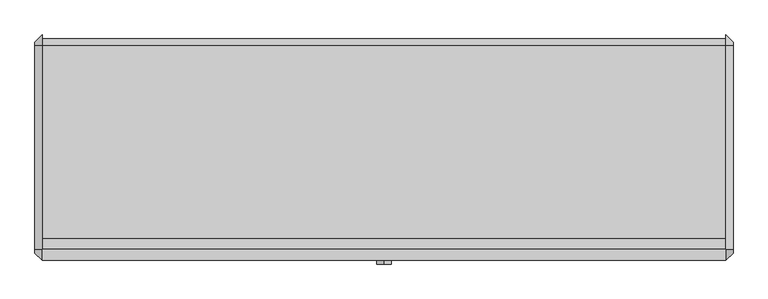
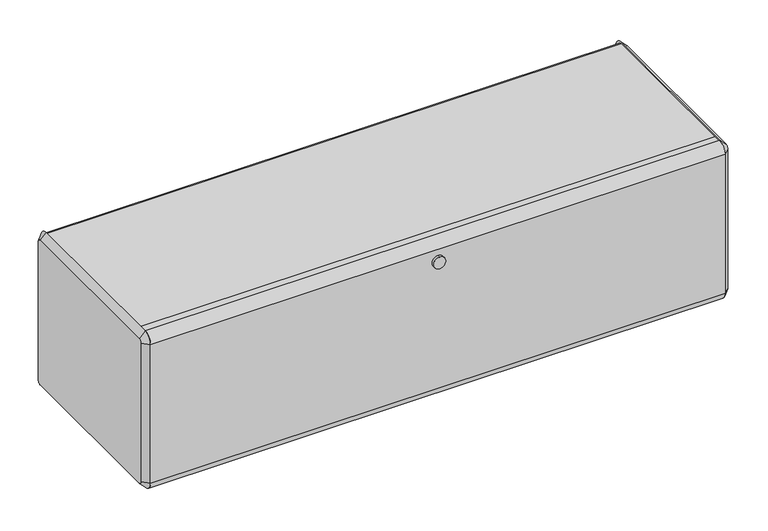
"""IFC4 building model written with IfcOpenShell, lengths in millimetres: furniture geometry."""

from ifc_helpers import new_model, si_unit, point, frame, frame_2d, origin, place, context, project, spatial, polyline, circle_curve, trimmed, segment, composite_curve, outline, extrude, source, transform, mapped, element, save
from ifc_brep_helpers import plane_surface, revolved_surface, advanced_brep


def furniture_debc09a2(model_context):
    return source(origin(), model_context, "Body", "SolidModel", [
        extrude(outline(polyline([(596.9, -146.0499879), (596.9, -165.1), (-596.9, -165.1), (-596.9, -146.0499879), (596.9, -146.0499879)])), frame((0.0, 0.0, 857.25), z_axis=(0.0, 0.0, 1.0), x_axis=(1.0, 0.0, 0.0)), (0.0, 0.0, 1.0), 9.525),
        extrude(outline(polyline([(596.9, 190.5), (596.9, -165.1), (-596.9, -165.1), (-596.9, 190.5), (596.9, 190.5)])), frame((0.0, 0.0, 527.05), z_axis=(0.0, 0.0, 1.0), x_axis=(1.0, 0.0, 0.0)), (0.0, 0.0, 1.0), 3.175),
        extrude(outline(composite_curve([segment(polyline([(-165.1, 866.775), (190.5, 866.775)]), True, "CONTINUOUS"), segment(trimmed(circle_curve(frame_2d((187.8607088, 851.6460671)), 15.3574239), [point((190.5, 866.775))], [point((203.2, 850.9))], False, "CARTESIAN"), True, "CONTINUOUS"), segment(polyline([(203.2, 850.9), (145.064407, 850.9)]), True, "CONTINUOUS"), segment(trimmed(circle_curve(frame_2d((218.4458797, 742.4427909)), 130.9496344), [point((145.064407, 850.9))], [point((190.5, 614.5098609))], True, "CARTESIAN"), True, "CONTINUOUS"), segment(polyline([(190.5, 614.5098609), (-165.1, 614.5098609), (-165.1, 866.775)]), True, "CONTINUOUS")], self_intersect=False)), frame((-596.9, 0.0, 0.0), z_axis=(1.0, 0.0, 0.0), x_axis=(0.0, 1.0, 0.0)), (0.0, 0.0, 1.0), 1193.8),
        extrude(outline(composite_curve([segment(trimmed(circle_curve(frame_2d((-165.1, 850.9)), 19.05), [point((-184.15, 850.9))], [point((-165.1, 869.95))], False, "CARTESIAN"), True, "CONTINUOUS"), segment(polyline([(-165.1, 869.95), (-165.1, 857.25)]), True, "CONTINUOUS"), segment(trimmed(circle_curve(frame_2d((-165.1, 850.9)), 6.35), [point((-165.1, 857.25))], [point((-171.45, 850.9))], True, "CARTESIAN"), True, "CONTINUOUS"), segment(polyline([(-171.45, 850.9), (-171.45, 546.1)]), True, "CONTINUOUS"), segment(trimmed(circle_curve(frame_2d((-165.1, 546.1)), 6.35), [point((-171.45, 546.1))], [point((-165.1, 539.75))], True, "CARTESIAN"), True, "CONTINUOUS"), segment(polyline([(-165.1, 539.75), (-165.1, 527.05)]), True, "CONTINUOUS"), segment(trimmed(circle_curve(frame_2d((-165.1, 546.1)), 19.05), [point((-165.1, 527.05))], [point((-184.15, 546.1))], False, "CARTESIAN"), True, "CONTINUOUS"), segment(polyline([(-184.15, 546.1), (-184.15, 850.9)]), True, "CONTINUOUS")], self_intersect=False)), frame((-596.9, 0.0, 0.0), z_axis=(1.0, 0.0, 0.0), x_axis=(0.0, 1.0, 0.0)), (0.0, 0.0, 1.0), 1193.8),
        extrude(outline(composite_curve([segment(trimmed(circle_curve(frame_2d((825.4502824, 0.0)), 12.713771), [point((812.7365114, 0.0))], [point((838.1640535, 0.0))], False, "CARTESIAN"), True, "CONTINUOUS"), segment(trimmed(circle_curve(frame_2d((825.4502824, 0.0)), 12.713771), [point((838.1640535, 0.0))], [point((812.7365114, 0.0))], False, "CARTESIAN"), True, "CONTINUOUS")], self_intersect=False)), frame((0.0, -190.5, 0.0), z_axis=(0.0, 1.0, 0.0), x_axis=(0.0, 0.0, 1.0)), (0.0, 0.0, 1.0), 6.35),
        advanced_brep(
        [(609.6, 190.5, 857.25), (609.6, -165.1, 857.25), (609.6, -171.45, 850.9), (609.6, -171.45, 546.1), (609.6, -165.1, 539.75), (609.6, 190.5, 539.75), (609.6, 196.85, 546.1), (609.6, 196.85, 850.9), (596.9, 190.5, 869.95), (596.9, 209.55, 850.9), (596.9, 209.55, 546.1), (596.9, 190.5, 527.05), (596.9, -165.1, 527.05), (596.9, -184.15, 546.1), (596.9, -184.15, 850.9), (596.9, -165.1, 869.95)],
        [
            (0, 1),
            (1, 2, circle_curve(frame((609.6, -165.1, 850.9), z_axis=(1.0, 1.169730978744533e-12, -1.268318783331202e-12), x_axis=(1.2683206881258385e-12, 0.0, 1.0)), 6.35)),
            (2, 3),
            (3, 4, circle_curve(frame((609.6, -165.1, 546.1), z_axis=(1.0, -2.728484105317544e-12, -2.7391422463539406e-12), x_axis=(-2.7285066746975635e-12, -1.0, 0.0)), 6.35)),
            (4, 5),
            (5, 6, circle_curve(frame((609.6, 190.5, 546.1), z_axis=(1.0, -3.4852121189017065e-12, 3.47455397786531e-12), x_axis=(3.4746146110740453e-12, 0.0, -1.0)), 6.35)),
            (6, 7),
            (7, 0, circle_curve(frame((609.6, 190.5, 850.9), z_axis=(1.0, 1.169730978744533e-12, 1.055155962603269e-12), x_axis=(-1.1697188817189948e-12, 1.0, 0.0)), 6.35)),
            (8, 9, circle_curve(frame((596.9, 190.5, 850.9), z_axis=(-1.0, -1.169730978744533e-12, -1.055155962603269e-12), x_axis=(-1.1697188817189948e-12, 1.0, 0.0)), 19.05)),
            (9, 10),
            (10, 11, circle_curve(frame((596.9, 190.5, 546.1), z_axis=(-1.0, 3.4852121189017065e-12, -3.47455397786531e-12), x_axis=(3.4746146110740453e-12, 0.0, -1.0)), 19.05)),
            (11, 12),
            (12, 13, circle_curve(frame((596.9, -165.1, 546.1), z_axis=(-1.0, 2.728484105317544e-12, 2.7391422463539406e-12), x_axis=(-2.7285066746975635e-12, -1.0, 0.0)), 19.05)),
            (13, 14),
            (14, 15, circle_curve(frame((596.9, -165.1, 850.9), z_axis=(-1.0, -1.169730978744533e-12, 1.268318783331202e-12), x_axis=(1.2683206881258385e-12, 0.0, 1.0)), 19.05)),
            (15, 8),
            (15, 1),
            (0, 8),
            (14, 2),
            (13, 3),
            (12, 4),
            (11, 5),
            (10, 6),
            (9, 7),
        ],
        [
            plane_surface(frame((609.6, 12.7, 698.5), z_axis=(1.0, 0.0, 0.0), x_axis=(0.0, -1.0, 0.0))),
            plane_surface(frame((596.9, 12.7, 698.5), z_axis=(-1.0, 0.0, 0.0), x_axis=(0.0, -1.0, 0.0))),
            plane_surface(frame((596.9, 12.7, 869.95), z_axis=(0.7071067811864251, 0.0, 0.70710678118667), x_axis=(0.0, -1.0, 0.0))),
            revolved_surface(polyline([(609.6000000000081, -165.1, 857.2499999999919), (596.9, -165.1, 869.95)]), (615.95, -165.1, 850.9), (-1.0, -1.169730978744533e-12, 1.268318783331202e-12)),
            plane_surface(frame((596.9, -184.15, 698.5), z_axis=(0.7071067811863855, -0.7071067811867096, 0.0), x_axis=(0.0, 0.0, -1.0))),
            revolved_surface(polyline([(609.6000000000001, -171.44999999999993, 546.1), (596.899999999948, -184.150000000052, 546.1)]), (615.95, -165.1, 546.1), (-1.0, 2.728484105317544e-12, 2.7391422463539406e-12)),
            plane_surface(frame((596.9, 12.7, 527.05), z_axis=(0.7071067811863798, 0.0, -0.7071067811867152), x_axis=(0.0, 1.0, 0.0))),
            revolved_surface(polyline([(609.6000000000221, 190.5, 539.750000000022), (596.8999999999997, 190.5, 527.0499999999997)]), (615.95, 190.5, 546.1), (-1.0, 3.4852121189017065e-12, -3.47455397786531e-12)),
            plane_surface(frame((596.9, 209.55, 698.5), z_axis=(0.7071067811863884, 0.7071067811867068, 0.0), x_axis=(0.0, 0.0, 1.0))),
            revolved_surface(polyline([(609.6, 196.85, 850.9), (596.8999999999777, 209.5500000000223, 850.9)]), (615.95, 190.5, 850.9), (-1.0, -1.169730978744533e-12, -1.055155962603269e-12)),
        ],
        [
            (0, [[1, 2, 3, 4, 5, 6, 7, 8]]),
            (1, [[9, 10, 11, 12, 13, 14, 15, 16]]),
            (2, [[-16, 17, -1, 18]]),
            (3, [[-15, 19, -2, -17]]),
            (4, [[-14, 20, -3, -19]]),
            (5, [[-13, 21, -4, -20]]),
            (6, [[-12, 22, -5, -21]]),
            (7, [[-11, 23, -6, -22]]),
            (8, [[-10, 24, -7, -23]]),
            (9, [[-9, -18, -8, -24]]),
        ],
    ),
        advanced_brep(
        [(-609.6, -165.1, 857.25), (-609.6, 190.5, 857.25), (-609.6, 196.85, 850.9), (-609.6, 196.85, 546.1), (-609.6, 190.5, 539.75), (-609.6, -165.1, 539.75), (-609.6, -171.45, 546.1), (-609.6, -171.45, 850.9), (-596.9, -165.1, 869.95), (-596.9, -184.15, 850.9), (-596.9, -184.15, 546.1), (-596.9, -165.1, 527.05), (-596.9, 190.5, 527.05), (-596.9, 209.55, 546.1), (-596.9, 209.55, 850.9), (-596.9, 190.5, 869.95)],
        [
            (0, 1),
            (1, 2, circle_curve(frame((-609.6, 190.5, 850.9), z_axis=(-1.0, -1.947775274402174e-12, -1.8651746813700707e-12), x_axis=(-1.8651128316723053e-12, 0.0, 1.0)), 6.35)),
            (2, 3),
            (3, 4, circle_curve(frame((-609.6, 190.5, 546.1), z_axis=(-1.0, 0.0, 0.0), x_axis=(0.0, 1.0, 0.0)), 6.35)),
            (4, 5),
            (5, 6, circle_curve(frame((-609.6, -165.1, 546.1), z_axis=(-1.0, 0.0, 0.0), x_axis=(0.0, 0.0, -1.0)), 6.35)),
            (6, 7),
            (7, 0, circle_curve(frame((-609.6, -165.1, 850.9), z_axis=(-1.0, -1.942446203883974e-12, 2.0357049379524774e-12), x_axis=(1.9425183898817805e-12, -1.0, 0.0)), 6.35)),
            (8, 9, circle_curve(frame((-596.9, -165.1, 850.9), z_axis=(1.0, 1.942446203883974e-12, -2.0357049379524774e-12), x_axis=(1.9425183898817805e-12, -1.0, 0.0)), 19.05)),
            (9, 10),
            (10, 11, circle_curve(frame((-596.9, -165.1, 546.1), z_axis=(1.0, 0.0, 0.0), x_axis=(0.0, 0.0, -1.0)), 19.05)),
            (11, 12),
            (12, 13, circle_curve(frame((-596.9, 190.5, 546.1), z_axis=(1.0, 0.0, 0.0), x_axis=(0.0, 1.0, 0.0)), 19.05)),
            (13, 14),
            (14, 15, circle_curve(frame((-596.9, 190.5, 850.9), z_axis=(1.0, 1.947775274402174e-12, 1.8651746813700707e-12), x_axis=(-1.8651128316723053e-12, 0.0, 1.0)), 19.05)),
            (15, 8),
            (15, 1),
            (0, 8),
            (14, 2),
            (13, 3),
            (12, 4),
            (11, 5),
            (10, 6),
            (9, 7),
        ],
        [
            plane_surface(frame((-609.6, 12.7, 698.5), z_axis=(-1.0, 0.0, 0.0), x_axis=(0.0, -1.0, 0.0))),
            plane_surface(frame((-596.9, 12.7, 698.5), z_axis=(1.0, 0.0, 0.0), x_axis=(0.0, -1.0, 0.0))),
            plane_surface(frame((-596.9, 12.7, 869.95), z_axis=(-0.707106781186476, 0.0, 0.7071067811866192), x_axis=(0.0, 1.0, 0.0))),
            revolved_surface(polyline([(-609.6000000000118, 190.5, 857.2499999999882), (-596.8999999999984, 190.5, 869.9500000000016)]), (-615.95, 190.5, 850.9), (1.0, 1.947775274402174e-12, 1.8651746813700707e-12)),
            plane_surface(frame((-596.9, 209.55, 698.5), z_axis=(-0.7071067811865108, 0.7071067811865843, 0.0), x_axis=(0.0, 0.0, -1.0))),
            revolved_surface(polyline([(-609.6, 196.85, 546.1), (-596.9, 209.55, 546.1)]), (-615.95, 190.5, 546.1), (1.0, 0.0, 0.0)),
            plane_surface(frame((-596.9, 12.7, 527.05), z_axis=(-0.7071067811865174, 0.0, -0.7071067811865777), x_axis=(0.0, -1.0, 0.0))),
            revolved_surface(polyline([(-609.6, -165.1, 539.75), (-596.9, -165.1, 527.05)]), (-615.95, -165.1, 546.1), (1.0, 0.0, 0.0)),
            plane_surface(frame((-596.9, -184.15, 698.5), z_axis=(-0.7071067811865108, -0.7071067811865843, 0.0), x_axis=(0.0, 0.0, 1.0))),
            revolved_surface(polyline([(-609.6000000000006, -171.44999999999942, 850.9), (-596.899999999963, -184.150000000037, 850.9)]), (-615.95, -165.1, 850.9), (1.0, 1.942446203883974e-12, -2.0357049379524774e-12)),
        ],
        [
            (0, [[1, 2, 3, 4, 5, 6, 7, 8]]),
            (1, [[9, 10, 11, 12, 13, 14, 15, 16]]),
            (2, [[-16, 17, -1, 18]]),
            (3, [[-15, 19, -2, -17]]),
            (4, [[-14, 20, -3, -19]]),
            (5, [[-13, 21, -4, -20]]),
            (6, [[-12, 22, -5, -21]]),
            (7, [[-11, 23, -6, -22]]),
            (8, [[-10, 24, -7, -23]]),
            (9, [[-9, -18, -8, -24]]),
        ],
    ),
    ])


if __name__ == "__main__":
    model = new_model("IFC4")
    model_context = context("Model", 3, world=origin())
    ifc_project = project(units=[si_unit("LENGTHUNIT", "METRE", prefix="MILLI")], contexts=[model_context])
    site = spatial("IfcSite", under=ifc_project)
    building = spatial("IfcBuilding", under=site)
    placement = place(None, origin())
    furniture_shape = furniture_debc09a2(model_context)
    element("IfcFurniture", 1, ObjectType="HermanMiller_ActionOffice_A3121_B-StyleSuspendedLateralFile : 16\"D x 48\"W", at=placement, inside=building, context=model_context, shape_type="MappedRepresentation", body=[
        mapped(furniture_shape, transform((0.0, 0.0, 0.0), x_axis=(1.0, 0.0, 0.0), y_axis=(0.0, 1.0, 0.0), z_axis=(0.0, 0.0, 1.0))),
    ])
    save(model, "model.ifc")
